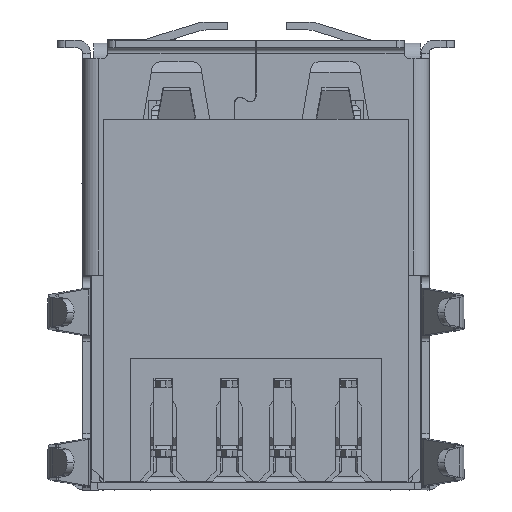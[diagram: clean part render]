
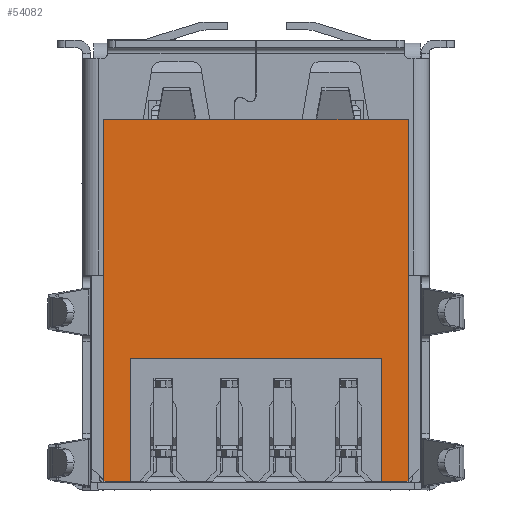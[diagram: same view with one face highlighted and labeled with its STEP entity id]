
A CAD part, front view. The second image highlights one B-rep face of the part: STEP entity #54082.
In plain terms, the highlighted planar face has unit normal (0, -1, 0).
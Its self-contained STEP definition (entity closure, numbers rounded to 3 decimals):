
#433=PLANE('',#56323);
#5462=ORIENTED_EDGE('',*,*,#16821,.F.);
#5463=ORIENTED_EDGE('',*,*,#16822,.F.);
#5464=ORIENTED_EDGE('',*,*,#16823,.F.);
#5465=ORIENTED_EDGE('',*,*,#16824,.T.);
#5466=ORIENTED_EDGE('',*,*,#16825,.F.);
#5467=ORIENTED_EDGE('',*,*,#16797,.F.);
#5468=ORIENTED_EDGE('',*,*,#16759,.F.);
#5469=ORIENTED_EDGE('',*,*,#16826,.T.);
#5470=ORIENTED_EDGE('',*,*,#16747,.T.);
#5471=ORIENTED_EDGE('',*,*,#16190,.F.);
#16190=EDGE_CURVE('',#22104,#22105,#26006,.T.);
#16747=EDGE_CURVE('',#22532,#22105,#26498,.T.);
#16759=EDGE_CURVE('',#22537,#22538,#26510,.T.);
#16797=EDGE_CURVE('',#22538,#22560,#26548,.T.);
#16821=EDGE_CURVE('',#22574,#22104,#26572,.T.);
#16822=EDGE_CURVE('',#22575,#22574,#26573,.T.);
#16823=EDGE_CURVE('',#22576,#22575,#26574,.T.);
#16824=EDGE_CURVE('',#22576,#22577,#26575,.T.);
#16825=EDGE_CURVE('',#22560,#22577,#26576,.T.);
#16826=EDGE_CURVE('',#22537,#22532,#26577,.T.);
#22104=VERTEX_POINT('',#71364);
#22105=VERTEX_POINT('',#71366);
#22532=VERTEX_POINT('',#72695);
#22537=VERTEX_POINT('',#72722);
#22538=VERTEX_POINT('',#72724);
#22560=VERTEX_POINT('',#72800);
#22574=VERTEX_POINT('',#72850);
#22575=VERTEX_POINT('',#72852);
#22576=VERTEX_POINT('',#72854);
#22577=VERTEX_POINT('',#72856);
#26006=LINE('',#71365,#30393);
#26498=LINE('',#72694,#30885);
#26510=LINE('',#72723,#30897);
#26548=LINE('',#72799,#30935);
#26572=LINE('',#72849,#30959);
#26573=LINE('',#72851,#30960);
#26574=LINE('',#72853,#30961);
#26575=LINE('',#72855,#30962);
#26576=LINE('',#72857,#30963);
#26577=LINE('',#72858,#30964);
#30393=VECTOR('',#60099,1000.);
#30885=VECTOR('',#60887,1000.);
#30897=VECTOR('',#60921,1000.);
#30935=VECTOR('',#60991,1000.);
#30959=VECTOR('',#61039,1000.);
#30960=VECTOR('',#61040,1000.);
#30961=VECTOR('',#61041,1000.);
#30962=VECTOR('',#61042,1000.);
#30963=VECTOR('',#61043,1000.);
#30964=VECTOR('',#61044,1000.);
#34523=EDGE_LOOP('',(#5462,#5463,#5464,#5465,#5466,#5467,#5468,#5469,#5470,
#5471));
#36726=FACE_BOUND('',#34523,.T.);
#54082=ADVANCED_FACE('',(#36726),#433,.F.);
#56323=AXIS2_PLACEMENT_3D('',#72848,#61037,#61038);
#60099=DIRECTION('',(-0.707,0.,0.707));
#60887=DIRECTION('',(0.,0.,-1.));
#60921=DIRECTION('',(0.,0.,-1.));
#60991=DIRECTION('',(-0.707,0.,-0.707));
#61037=DIRECTION('',(0.,1.,0.));
#61038=DIRECTION('',(0.,0.,-1.));
#61039=DIRECTION('',(-1.,0.,0.));
#61040=DIRECTION('',(0.,0.,-1.));
#61041=DIRECTION('',(-1.,0.,0.));
#61042=DIRECTION('',(0.,0.,-1.));
#61043=DIRECTION('',(-1.,0.,0.));
#61044=DIRECTION('',(-1.,0.,0.));
#71364=CARTESIAN_POINT('',(-5.7,0.,-16.67));
#71365=CARTESIAN_POINT('',(-5.7,0.,-16.67));
#71366=CARTESIAN_POINT('',(-5.75,0.,-16.62));
#72694=CARTESIAN_POINT('',(-5.75,0.,-9.835));
#72695=CARTESIAN_POINT('',(-5.75,0.,-3.));
#72722=CARTESIAN_POINT('',(5.75,0.,-3.));
#72723=CARTESIAN_POINT('',(5.75,0.,-16.35));
#72724=CARTESIAN_POINT('',(5.75,0.,-16.62));
#72799=CARTESIAN_POINT('',(5.75,0.,-16.62));
#72800=CARTESIAN_POINT('',(5.7,0.,-16.67));
#72848=CARTESIAN_POINT('',(0.,0.,-9.835));
#72849=CARTESIAN_POINT('',(0.,0.,-16.67));
#72850=CARTESIAN_POINT('',(-4.75,0.,-16.67));
#72851=CARTESIAN_POINT('',(-4.75,0.,-14.345));
#72852=CARTESIAN_POINT('',(-4.75,0.,-12.02));
#72853=CARTESIAN_POINT('',(0.,0.,-12.02));
#72854=CARTESIAN_POINT('',(4.75,0.,-12.02));
#72855=CARTESIAN_POINT('',(4.75,0.,-14.345));
#72856=CARTESIAN_POINT('',(4.75,0.,-16.67));
#72857=CARTESIAN_POINT('',(0.,0.,-16.67));
#72858=CARTESIAN_POINT('',(0.,0.,-3.));
